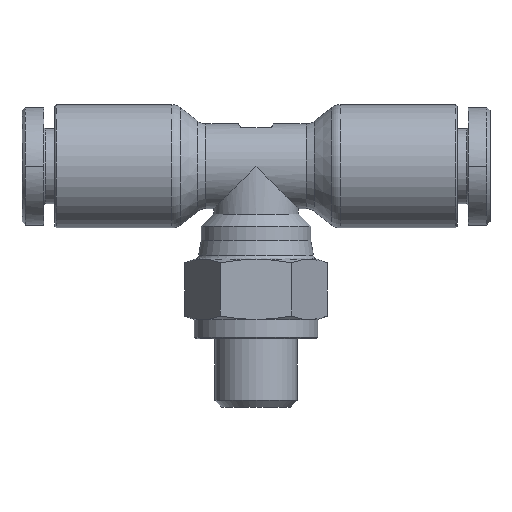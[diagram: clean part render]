
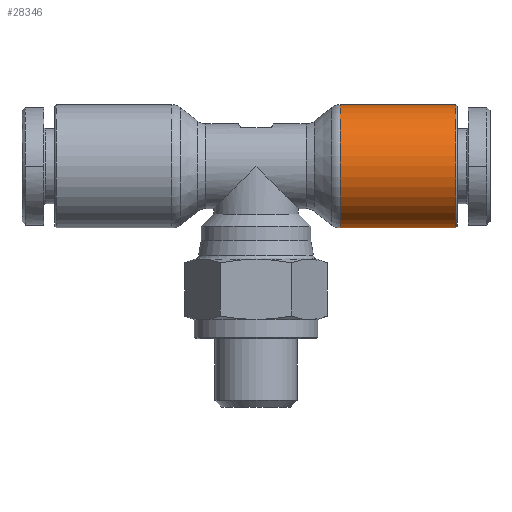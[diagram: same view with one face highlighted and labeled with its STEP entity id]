
A CAD part, top view. The second image highlights one B-rep face of the part: STEP entity #28346.
In plain terms, the highlighted cylindrical face has radius 4.5 mm (diameter 9 mm), a partial arc.
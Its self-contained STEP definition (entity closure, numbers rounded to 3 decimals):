
#517=CARTESIAN_POINT('',(-9.5,0.,4.5));
#518=VERTEX_POINT('',#517);
#519=CARTESIAN_POINT('',(-1.043,0.,4.5));
#520=VERTEX_POINT('',#519);
#521=CARTESIAN_POINT('',(-9.5,0.,4.5));
#522=DIRECTION('',(1.0,0.0,0.0));
#523=VECTOR('',#522,8.457);
#524=LINE('',#521,#523);
#525=EDGE_CURVE('',#518,#520,#524,.T.);
#527=CARTESIAN_POINT('',(-9.5,0.,-4.5));
#528=VERTEX_POINT('',#527);
#536=CARTESIAN_POINT('',(-1.043,0.,-4.5));
#537=VERTEX_POINT('',#536);
#538=CARTESIAN_POINT('',(-1.043,0.,-4.5));
#539=DIRECTION('',(-1.0,0.0,0.0));
#540=VECTOR('',#539,8.457);
#541=LINE('',#538,#540);
#542=EDGE_CURVE('',#537,#528,#541,.T.);
#598=CARTESIAN_POINT('',(-1.043,0.,0.0));
#599=DIRECTION('',(1.0,0.0,0.0));
#600=DIRECTION('',(0.0,0.0,-1.0));
#601=AXIS2_PLACEMENT_3D('',#598,#599,#600);
#602=CIRCLE('',#601,4.5);
#603=EDGE_CURVE('',#537,#520,#602,.T.);
#4203=CARTESIAN_POINT('',(-9.5,0.,0.));
#4204=DIRECTION('',(-1.0,0.0,0.0));
#4205=DIRECTION('',(0.0,0.0,-1.0));
#4206=AXIS2_PLACEMENT_3D('',#4203,#4204,#4205);
#4207=CIRCLE('',#4206,4.5);
#4208=EDGE_CURVE('',#518,#528,#4207,.T.);
#28335=CARTESIAN_POINT('',(-4.55,0.,0.0));
#28336=DIRECTION('',(1.0,0.0,0.0));
#28337=DIRECTION('',(0.0,0.0,1.0));
#28338=AXIS2_PLACEMENT_3D('',#28335,#28336,#28337);
#28339=CYLINDRICAL_SURFACE('',#28338,4.5);
#28340=ORIENTED_EDGE('',*,*,#525,.T.);
#28341=ORIENTED_EDGE('',*,*,#603,.F.);
#28342=ORIENTED_EDGE('',*,*,#542,.T.);
#28343=ORIENTED_EDGE('',*,*,#4208,.F.);
#28344=EDGE_LOOP('',(#28340,#28341,#28342,#28343));
#28345=FACE_OUTER_BOUND('',#28344,.T.);
#28346=ADVANCED_FACE('',(#28345),#28339,.T.);
